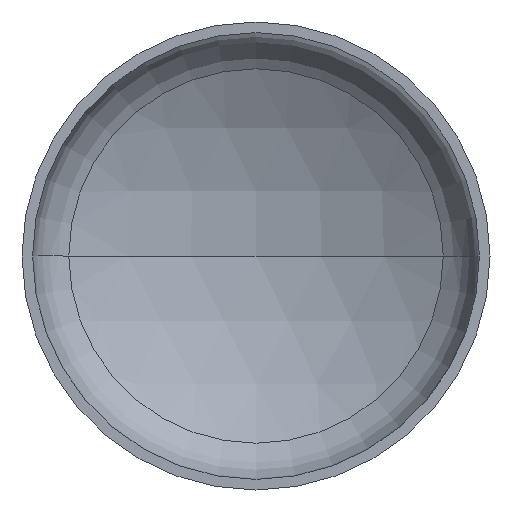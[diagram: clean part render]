
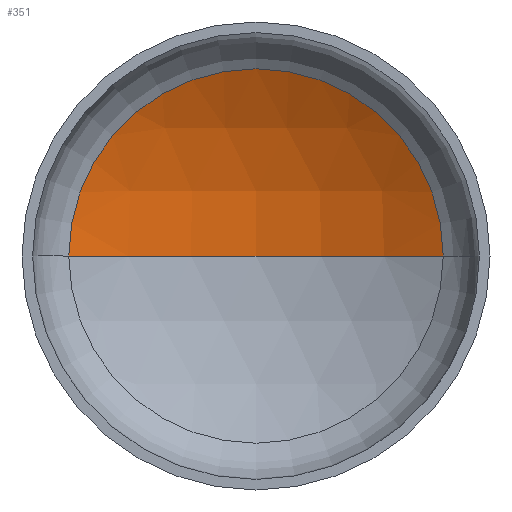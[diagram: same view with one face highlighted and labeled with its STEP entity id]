
A CAD part, front view. The second image highlights one B-rep face of the part: STEP entity #351.
In plain terms, the highlighted spherical face has radius 1760 mm.
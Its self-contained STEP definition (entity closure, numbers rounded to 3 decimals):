
#21 = CARTESIAN_POINT ( 'NONE',  ( 880., 444.449, 0. ) ) ;
#22 = AXIS2_PLACEMENT_3D ( 'NONE', #61, #100, #102 ) ;
#27 = CARTESIAN_POINT ( 'NONE',  ( -880., 444.449, 0. ) ) ;
#53 = AXIS2_PLACEMENT_3D ( 'NONE', #254, #247, #219 ) ;
#57 = AXIS2_PLACEMENT_3D ( 'NONE', #74, #268, #299 ) ;
#59 = VERTEX_POINT ( 'NONE', #224 ) ;
#60 = ORIENTED_EDGE ( 'NONE', *, *, #140, .T. ) ;
#61 = CARTESIAN_POINT ( 'NONE',  ( 0., -1079.756, 0. ) ) ;
#62 = AXIS2_PLACEMENT_3D ( 'NONE', #199, #235, #234 ) ;
#73 = EDGE_LOOP ( 'NONE', ( #259, #60, #332 ) ) ;
#74 = CARTESIAN_POINT ( 'NONE',  ( 0., 444.449, 0. ) ) ;
#100 = DIRECTION ( 'NONE',  ( 0., 0., -1. ) ) ;
#102 = DIRECTION ( 'NONE',  ( -1., 0., 0. ) ) ;
#125 = EDGE_CURVE ( 'NONE', #196, #383, #337, .T. ) ;
#140 = EDGE_CURVE ( 'NONE', #59, #196, #402, .T. ) ;
#146 = EDGE_CURVE ( 'NONE', #59, #383, #391, .T. ) ;
#150 = FACE_OUTER_BOUND ( 'NONE', #73, .T. ) ;
#196 = VERTEX_POINT ( 'NONE', #21 ) ;
#199 = CARTESIAN_POINT ( 'NONE',  ( 0., -1079.756, 0. ) ) ;
#219 = DIRECTION ( 'NONE',  ( 1., 0., 0. ) ) ;
#224 = CARTESIAN_POINT ( 'NONE',  ( 0., 680.244, 0. ) ) ;
#234 = DIRECTION ( 'NONE',  ( -1., 0., 0. ) ) ;
#235 = DIRECTION ( 'NONE',  ( 0., 0., -1. ) ) ;
#247 = DIRECTION ( 'NONE',  ( 0., 0., 1. ) ) ;
#254 = CARTESIAN_POINT ( 'NONE',  ( 0., -1079.756, 0. ) ) ;
#259 = ORIENTED_EDGE ( 'NONE', *, *, #146, .F. ) ;
#268 = DIRECTION ( 'NONE',  ( 0., -1., 0. ) ) ;
#293 = SPHERICAL_SURFACE ( 'NONE', #22, 1760. ) ;
#299 = DIRECTION ( 'NONE',  ( 1., 0., 0. ) ) ;
#332 = ORIENTED_EDGE ( 'NONE', *, *, #125, .T. ) ;
#337 = CIRCLE ( 'NONE', #57, 880. ) ;
#351 = ADVANCED_FACE ( 'NONE', ( #150 ), #293, .F. ) ;
#383 = VERTEX_POINT ( 'NONE', #27 ) ;
#391 = CIRCLE ( 'NONE', #53, 1760. ) ;
#402 = CIRCLE ( 'NONE', #62, 1760. ) ;
